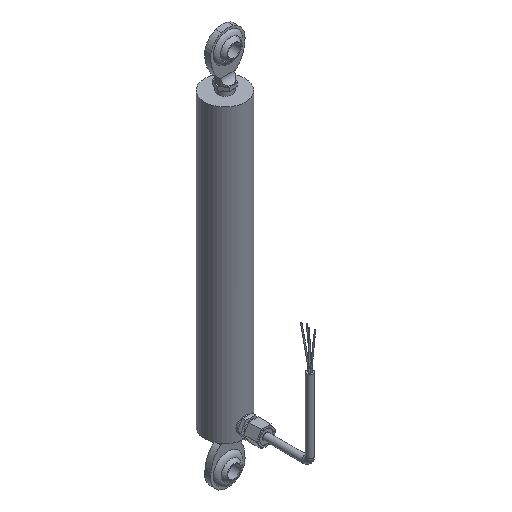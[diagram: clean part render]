
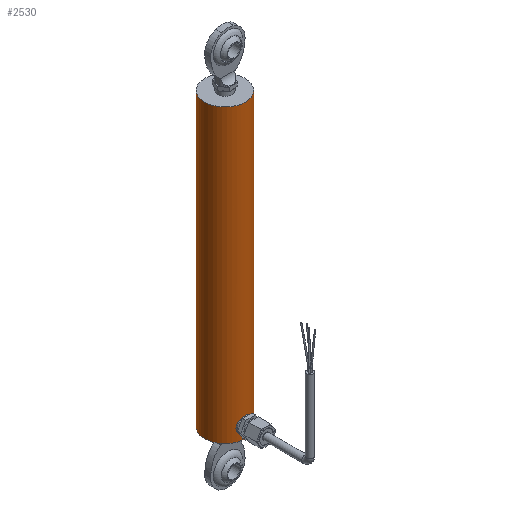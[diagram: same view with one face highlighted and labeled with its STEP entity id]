
A CAD part, isometric view. The second image highlights one B-rep face of the part: STEP entity #2530.
In plain terms, the highlighted cylindrical face has radius 13.335 mm (diameter 26.67 mm), a full revolution.
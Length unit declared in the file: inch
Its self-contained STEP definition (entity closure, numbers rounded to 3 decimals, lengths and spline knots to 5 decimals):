
#68=B_SPLINE_CURVE_WITH_KNOTS('',3,(#4339,#4340,#4341,#4342,#4343,#4344,
#4345,#4346,#4347,#4348),.UNSPECIFIED.,.F.,.F.,(4,2,2,2,4),(0.,0.19357,
0.38715,0.58056,0.77398),.UNSPECIFIED.);
#69=B_SPLINE_CURVE_WITH_KNOTS('',3,(#4349,#4350,#4351,#4352,#4353,#4354,
#4355,#4356,#4357,#4358),.UNSPECIFIED.,.F.,.F.,(4,2,2,2,4),(2.32194,
2.51535,2.70877,2.90234,3.09591),
 .UNSPECIFIED.);
#70=B_SPLINE_CURVE_WITH_KNOTS('',3,(#4360,#4361,#4362,#4363,#4364,#4365,
#4366,#4367,#4368,#4369,#4370,#4371,#4372,#4373,#4374,#4375,#4376,#4377),
 .UNSPECIFIED.,.F.,.F.,(4,2,2,2,2,2,2,2,4),(0.77398,0.96739,
1.16081,1.35438,1.54796,1.74153,1.93511,
2.12852,2.32194),.UNSPECIFIED.);
#153=CYLINDRICAL_SURFACE('',#2939,0.525);
#197=FACE_BOUND('',#580,.T.);
#262=CIRCLE('',#2927,0.525);
#268=CIRCLE('',#2940,0.525);
#414=FACE_OUTER_BOUND('',#579,.T.);
#579=EDGE_LOOP('',(#1886,#1887,#1888,#1889));
#580=EDGE_LOOP('',(#1890,#1891,#1892));
#765=LINE('',#4382,#911);
#911=VECTOR('',#3479,0.525);
#1077=VERTEX_POINT('',#4320);
#1081=VERTEX_POINT('',#4332);
#1082=VERTEX_POINT('',#4334);
#1083=VERTEX_POINT('',#4338);
#1084=VERTEX_POINT('',#4380);
#1360=EDGE_CURVE('',#1077,#1077,#262,.T.);
#1368=EDGE_CURVE('',#1083,#1081,#68,.T.);
#1369=EDGE_CURVE('',#1082,#1083,#69,.T.);
#1370=EDGE_CURVE('',#1081,#1082,#70,.T.);
#1371=EDGE_CURVE('',#1084,#1084,#268,.T.);
#1372=EDGE_CURVE('',#1084,#1077,#765,.T.);
#1886=ORIENTED_EDGE('',*,*,#1371,.F.);
#1887=ORIENTED_EDGE('',*,*,#1372,.T.);
#1888=ORIENTED_EDGE('',*,*,#1360,.T.);
#1889=ORIENTED_EDGE('',*,*,#1372,.F.);
#1890=ORIENTED_EDGE('',*,*,#1368,.T.);
#1891=ORIENTED_EDGE('',*,*,#1370,.T.);
#1892=ORIENTED_EDGE('',*,*,#1369,.T.);
#2530=ADVANCED_FACE('',(#414,#197),#153,.T.);
#2927=AXIS2_PLACEMENT_3D('',#4321,#3449,#3450);
#2939=AXIS2_PLACEMENT_3D('',#4379,#3475,#3476);
#2940=AXIS2_PLACEMENT_3D('',#4381,#3477,#3478);
#3449=DIRECTION('center_axis',(0.,0.,
1.));
#3450=DIRECTION('ref_axis',(-1.,0.,0.));
#3475=DIRECTION('center_axis',(0.,0.,
1.));
#3476=DIRECTION('ref_axis',(-1.,0.,0.));
#3477=DIRECTION('center_axis',(0.,0.,
1.));
#3478=DIRECTION('ref_axis',(-1.,0.,0.));
#3479=DIRECTION('',(0.,0.,-1.));
#4320=CARTESIAN_POINT('',(0.525,0.,0.));
#4321=CARTESIAN_POINT('Origin',(0.,0.,0.));
#4332=CARTESIAN_POINT('',(0.,-0.525,0.11847));
#4334=CARTESIAN_POINT('',(0.,-0.525,0.51847));
#4338=CARTESIAN_POINT('',(0.2,-0.48541,0.31847));
#4339=CARTESIAN_POINT('Ctrl Pts',(0.2,-0.48541,0.31847));
#4340=CARTESIAN_POINT('Ctrl Pts',(0.2,-0.48541,0.29307));
#4341=CARTESIAN_POINT('Ctrl Pts',(0.19487,-0.48762,
0.26617));
#4342=CARTESIAN_POINT('Ctrl Pts',(0.17439,-0.49531,
0.21699));
#4343=CARTESIAN_POINT('Ctrl Pts',(0.15904,-0.50066,
0.19467));
#4344=CARTESIAN_POINT('Ctrl Pts',(0.12381,-0.51052,
0.15944));
#4345=CARTESIAN_POINT('Ctrl Pts',(0.10149,-0.5157,
0.14409));
#4346=CARTESIAN_POINT('Ctrl Pts',(0.05229,-0.52298,
0.1236));
#4347=CARTESIAN_POINT('Ctrl Pts',(0.02538,-0.525,0.11847));
#4348=CARTESIAN_POINT('Ctrl Pts',(0.,-0.525,0.11847));
#4349=CARTESIAN_POINT('Ctrl Pts',(0.,-0.525,0.51847));
#4350=CARTESIAN_POINT('Ctrl Pts',(0.02538,-0.525,0.51847));
#4351=CARTESIAN_POINT('Ctrl Pts',(0.05229,-0.52298,
0.51335));
#4352=CARTESIAN_POINT('Ctrl Pts',(0.10149,-0.5157,
0.49285));
#4353=CARTESIAN_POINT('Ctrl Pts',(0.12381,-0.51052,
0.4775));
#4354=CARTESIAN_POINT('Ctrl Pts',(0.15904,-0.50066,
0.44227));
#4355=CARTESIAN_POINT('Ctrl Pts',(0.17439,-0.49531,
0.41996));
#4356=CARTESIAN_POINT('Ctrl Pts',(0.19487,-0.48762,
0.37077));
#4357=CARTESIAN_POINT('Ctrl Pts',(0.2,-0.48541,0.34388));
#4358=CARTESIAN_POINT('Ctrl Pts',(0.2,-0.48541,0.31847));
#4360=CARTESIAN_POINT('Ctrl Pts',(0.,-0.525,0.11847));
#4361=CARTESIAN_POINT('Ctrl Pts',(-0.02538,-0.525,0.11847));
#4362=CARTESIAN_POINT('Ctrl Pts',(-0.05229,-0.52298,
0.1236));
#4363=CARTESIAN_POINT('Ctrl Pts',(-0.10149,-0.5157,
0.14409));
#4364=CARTESIAN_POINT('Ctrl Pts',(-0.12381,-0.51052,
0.15944));
#4365=CARTESIAN_POINT('Ctrl Pts',(-0.15904,-0.50066,
0.19467));
#4366=CARTESIAN_POINT('Ctrl Pts',(-0.17439,-0.49531,
0.21699));
#4367=CARTESIAN_POINT('Ctrl Pts',(-0.19487,-0.48762,
0.26617));
#4368=CARTESIAN_POINT('Ctrl Pts',(-0.2,-0.48541,0.29307));
#4369=CARTESIAN_POINT('Ctrl Pts',(-0.2,-0.48541,0.34388));
#4370=CARTESIAN_POINT('Ctrl Pts',(-0.19487,-0.48762,
0.37077));
#4371=CARTESIAN_POINT('Ctrl Pts',(-0.17439,-0.49531,
0.41996));
#4372=CARTESIAN_POINT('Ctrl Pts',(-0.15904,-0.50066,
0.44227));
#4373=CARTESIAN_POINT('Ctrl Pts',(-0.12381,-0.51052,
0.4775));
#4374=CARTESIAN_POINT('Ctrl Pts',(-0.10149,-0.5157,
0.49285));
#4375=CARTESIAN_POINT('Ctrl Pts',(-0.05229,-0.52298,
0.51335));
#4376=CARTESIAN_POINT('Ctrl Pts',(-0.02538,-0.525,0.51847));
#4377=CARTESIAN_POINT('Ctrl Pts',(0.,-0.525,0.51847));
#4379=CARTESIAN_POINT('Origin',(0.,0.,0.));
#4380=CARTESIAN_POINT('',(0.525,0.,7.5));
#4381=CARTESIAN_POINT('Origin',(0.,0.,
7.5));
#4382=CARTESIAN_POINT('',(0.525,0.,0.));
